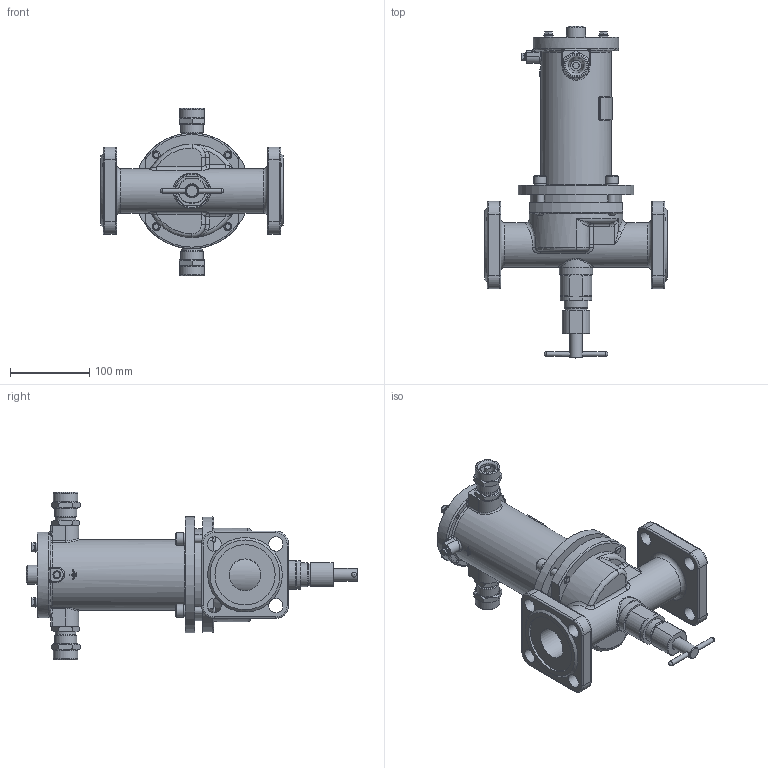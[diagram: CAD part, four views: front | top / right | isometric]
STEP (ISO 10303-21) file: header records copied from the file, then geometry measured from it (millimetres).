
FILE_DESCRIPTION(('STEP AP203'), '1');
FILE_NAME('ÑÅÍÑ DN40PN25-ÍÎ-ÑÂ.stp', '2018-09-19T08:38:42', ('Îðëîâ Å.Â.'), ('ÎÎÎ ÍÏÏ Ñåíñîð'), 'ASCON STEP Converter 1.3', 'Kompas 3D', '');
FILE_SCHEMA(('CONFIG_CONTROL_DESIGN','SUPPORT_RESOURCE_SCHEMA'));
Length unit declared in the file: millimetre
Products named in the file (1): 23
Bounding box: 230 x 418.8 x 211 mm (x, y, z)
Volume: 1609373 mm3; surface area: 400050.5 mm2
Topology: 2 solids, 21 shells, 1988 faces, 5270 edges, 3400 vertices
Faces by surface type: cylinder 1011, plane 727, cone 132, torus 50, bspline 48, extrusion 16, sphere 4
Full cylindrical faces by diameter (mm): 3.5 x2, 4.134 x1, 4.917 x4, 5 x1, 6 x10, 6.5 x4, 7 x2, 8 x8, 10 x9, 11 x4, 12 x4, 13 x2, 16 x6, 17 x2, 18 x9, 20 x5, 22 x2, 22.376 x2, 23 x1, 23.5 x2, 24 x3, 24.5 x2, 26 x4, 26.376 x2, 27.8 x1, 28 x3, 28.5 x2, 30 x2, 31 x2, 40 x2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
Entity records: 77465 total; most frequent: CARTESIAN_POINT 27037, DIRECTION 10942, ORIENTED_EDGE 10478, EDGE_CURVE 5239, AXIS2_PLACEMENT_3D 4202, VERTEX_POINT 3400, VECTOR 2538, LINE 2522
